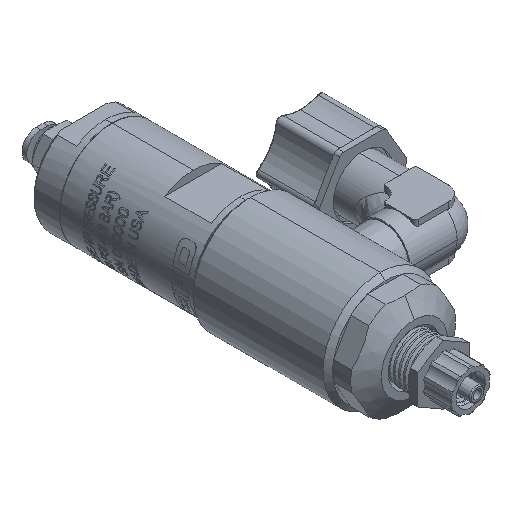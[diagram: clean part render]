
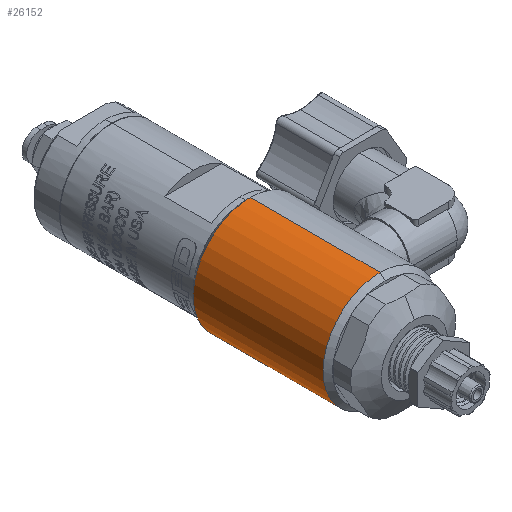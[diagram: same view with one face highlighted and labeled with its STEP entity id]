
A CAD part, isometric view. The second image highlights one B-rep face of the part: STEP entity #26152.
In plain terms, the highlighted cylindrical face has radius 15.557 mm (diameter 31.115 mm), a partial arc.
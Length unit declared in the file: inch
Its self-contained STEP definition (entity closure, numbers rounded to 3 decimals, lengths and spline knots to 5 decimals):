
#554 = CARTESIAN_POINT ( 'NONE',  ( 0., -0.0525, 0. ) ) ;
#1216 = LINE ( 'NONE', #28732, #25865 ) ;
#1760 = EDGE_CURVE ( 'NONE', #14215, #29248, #1216, .T. ) ;
#2524 = EDGE_LOOP ( 'NONE', ( #27206, #31831, #13709, #16373 ) ) ;
#3970 = CARTESIAN_POINT ( 'NONE',  ( 0., -1.4475, 0. ) ) ;
#9017 = CARTESIAN_POINT ( 'NONE',  ( 0., -0.0525, -0.6125 ) ) ;
#10051 = CARTESIAN_POINT ( 'NONE',  ( 0., -1.4475, 0.6125 ) ) ;
#13082 = VECTOR ( 'NONE', #38172, 39.37008 ) ;
#13709 = ORIENTED_EDGE ( 'NONE', *, *, #1760, .T. ) ;
#13712 = CARTESIAN_POINT ( 'NONE',  ( 0., -0.0525, 0.6125 ) ) ;
#14215 = VERTEX_POINT ( 'NONE', #10051 ) ;
#15052 = DIRECTION ( 'NONE',  ( 0., -1., 0. ) ) ;
#15651 = CARTESIAN_POINT ( 'NONE',  ( 0., -1.5, -0.6125 ) ) ;
#15900 = LINE ( 'NONE', #15651, #13082 ) ;
#16075 = CIRCLE ( 'NONE', #24120, 0.6125 ) ;
#16210 = DIRECTION ( 'NONE',  ( 0., 0., -1. ) ) ;
#16373 = ORIENTED_EDGE ( 'NONE', *, *, #19772, .F. ) ;
#18399 = CARTESIAN_POINT ( 'NONE',  ( 0., -1.4475, -0.6125 ) ) ;
#19370 = DIRECTION ( 'NONE',  ( 0., 0., 1. ) ) ;
#19772 = EDGE_CURVE ( 'NONE', #49600, #29248, #16075, .T. ) ;
#20961 = EDGE_CURVE ( 'NONE', #39339, #49600, #15900, .T. ) ;
#22324 = CYLINDRICAL_SURFACE ( 'NONE', #28182, 0.6125 ) ;
#24120 = AXIS2_PLACEMENT_3D ( 'NONE', #554, #27076, #16210 ) ;
#25865 = VECTOR ( 'NONE', #41325, 39.37008 ) ;
#26152 = ADVANCED_FACE ( 'NONE', ( #45073 ), #22324, .T. ) ;
#27076 = DIRECTION ( 'NONE',  ( 0., 1., 0. ) ) ;
#27206 = ORIENTED_EDGE ( 'NONE', *, *, #20961, .F. ) ;
#27864 = AXIS2_PLACEMENT_3D ( 'NONE', #3970, #15052, #19370 ) ;
#28182 = AXIS2_PLACEMENT_3D ( 'NONE', #45324, #33967, #37272 ) ;
#28732 = CARTESIAN_POINT ( 'NONE',  ( 0., -1.5, 0.6125 ) ) ;
#29248 = VERTEX_POINT ( 'NONE', #13712 ) ;
#31831 = ORIENTED_EDGE ( 'NONE', *, *, #47728, .F. ) ;
#31908 = CIRCLE ( 'NONE', #27864, 0.6125 ) ;
#33967 = DIRECTION ( 'NONE',  ( 0., 1., 0. ) ) ;
#37272 = DIRECTION ( 'NONE',  ( 0., 0., 1. ) ) ;
#38172 = DIRECTION ( 'NONE',  ( 0., 1., 0. ) ) ;
#39339 = VERTEX_POINT ( 'NONE', #18399 ) ;
#41325 = DIRECTION ( 'NONE',  ( 0., 1., 0. ) ) ;
#45073 = FACE_OUTER_BOUND ( 'NONE', #2524, .T. ) ;
#45324 = CARTESIAN_POINT ( 'NONE',  ( 0., -1.5, 0. ) ) ;
#47728 = EDGE_CURVE ( 'NONE', #14215, #39339, #31908, .T. ) ;
#49600 = VERTEX_POINT ( 'NONE', #9017 ) ;
